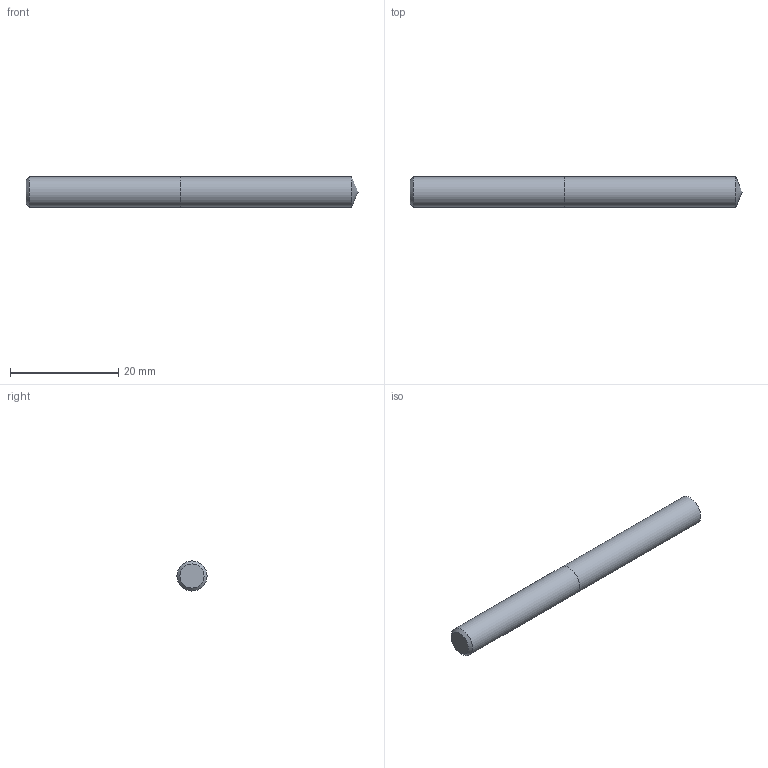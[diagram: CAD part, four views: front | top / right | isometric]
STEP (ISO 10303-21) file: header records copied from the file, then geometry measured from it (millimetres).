
FILE_DESCRIPTION (( 'STEP AP214' ), '1' );
FILE_NAME ('03-2413.STEP', '2022-06-03T07:26:31', ( 'USER' ), ( '' ), 'SwSTEP 2.0', 'SolidWorks 2018', '' );
FILE_SCHEMA (( 'AUTOMOTIVE_DESIGN' ));
Length unit declared in the file: inch
Products named in the file (1): 03-2413
Bounding box: 61.48 x 5.56 x 5.56 mm (x, y, z)
Volume: 1469.5 mm3; surface area: 1145.9 mm2
Topology: 2 solids, 2 shells, 7 faces, 11 edges, 7 vertices
Faces by surface type: plane 3, cylinder 2, cone 2
Full cylindrical faces by diameter (mm): 5.556 x2
Entity records: 214 total; most frequent: DIRECTION 26, CARTESIAN_POINT 18, AXIS2_PLACEMENT_3D 13, ORIENTED_EDGE 10, EDGE_LOOP 10, FACE_OUTER_BOUND 9, DIMENSIONAL_EXPONENTS 7, UNCERTAINTY_MEASURE_WITH_UNIT 7
